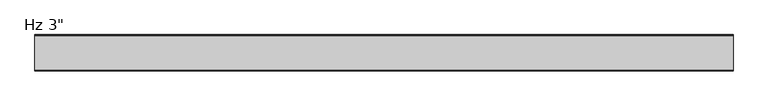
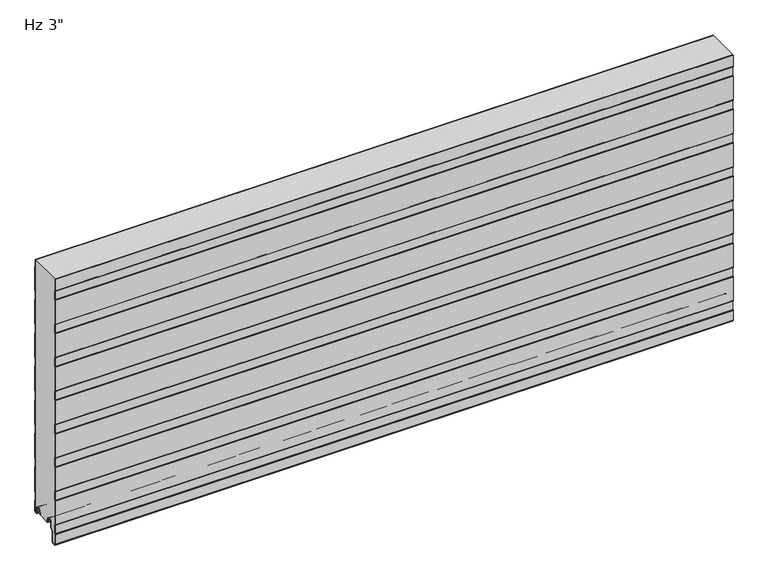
"""IFC4 building model written with IfcOpenShell, lengths in millimetres: plate geometry."""

from ifc_helpers import new_model, si_unit, point, frame, frame_2d, origin, place, context, project, spatial, polyline, circle_curve, trimmed, segment, composite_curve, outline, extrude, source, transform, mapped, element, save
from ifc_brep_helpers import plane_surface, cylinder_surface, revolved_surface, advanced_brep


def plate_888f3173(model_context):
    return source(origin(), model_context, "Body", "SolidModel", [
        advanced_brep(
        [(-730.0, -17.0015368, 2.0313088), (-730.0, -18.00154, 1.0313116), (-730.0, -19.0015314, 2.0313088), (-730.0, -19.0015314, 6.0315125), (-730.0, -18.0015368, 6.0315125), (-730.0, -18.0015368, 8.7237223), (-730.0, -14.7015411, 12.023718), (-730.0, -10.3015499, 12.023718), (-730.0, -7.0015544, 8.7237225), (-730.0, -7.0015544, -1.6962564), (-730.0, -5.2315602, -3.4662506), (-730.0, -1.0000126, -3.4662506), (-730.0, -1.0000126, 21.034026), (-730.0, -2.2002516, 22.4196686), (-730.0, -2.2002516, 41.7948349), (-730.0, -1.0000209, 43.1804679), (-730.0, -1.0000209, 97.2338833), (-730.0, -2.2002516, 98.6195162), (-730.0, -2.2002516, 117.9946825), (-730.0, -1.0000209, 119.3803155), (-730.0, -1.0000209, 173.4337309), (-730.0, -2.2002516, 174.8193638), (-730.0, -2.2002516, 194.1945301), (-730.0, -1.0000209, 195.5801631), (-730.0, -1.0000209, 249.6335785), (-730.0, -2.2002516, 251.0192114), (-730.0, -2.2002516, 270.3943777), (-730.0, -1.0000209, 271.7800107), (-730.0, -1.0000209, 325.8334261), (-730.0, -2.2002516, 327.219059), (-730.0, -2.2002516, 346.5942253), (-730.0, -1.0000209, 347.9798583), (-730.0, -1.0000209, 402.0332737), (-730.0, -2.2002516, 403.4189066), (-730.0, -2.2002516, 422.7940729), (-730.0, -1.0000209, 424.1797059), (-730.0, -1.0000209, 478.2331213), (-730.0, -2.2002516, 479.6187542), (-730.0, -2.2002516, 498.9939205), (-730.0, -1.0000209, 500.3795535), (-730.0, -1.0000209, 554.4329689), (-730.0, -2.2002516, 555.8186018), (-730.0, -2.2002516, 571.2), (-730.0, -1.2002516, 571.2), (-730.0, -1.2002516, 556.1914823), (-730.0, -0.3418094, 555.2004346), (-730.0, -2.09e-05, 554.2838177), (-730.0, -2.09e-05, 500.5287046), (-730.0, -0.3418094, 499.6120877), (-730.0, -1.2002516, 498.6210401), (-730.0, -1.2002516, 479.9916347), (-730.0, -0.3418094, 479.000587), (-730.0, -2.09e-05, 478.0839701), (-730.0, -2.09e-05, 424.328857), (-730.0, -0.3418094, 423.4122401), (-730.0, -1.2002516, 422.4211925), (-730.0, -1.2002516, 403.7917871), (-730.0, -0.3418094, 402.8007394), (-730.0, -2.09e-05, 401.8841225), (-730.0, -2.09e-05, 348.1290094), (-730.0, -0.3418094, 347.2123925), (-730.0, -1.2002516, 346.2213449), (-730.0, -1.2002516, 327.5919395), (-730.0, -0.3418094, 326.6008918), (-730.0, -2.09e-05, 325.6842749), (-730.0, -2.09e-05, 271.9291618), (-730.0, -0.3418094, 271.0125449), (-730.0, -1.2002516, 270.0214973), (-730.0, -1.2002516, 251.3920919), (-730.0, -0.3418094, 250.4010442), (-730.0, -2.09e-05, 249.4844273), (-730.0, -2.09e-05, 195.7293142), (-730.0, -0.3418094, 194.8126973), (-730.0, -1.2002516, 193.8216497), (-730.0, -1.2002516, 175.1922443), (-730.0, -0.3418094, 174.2011966), (-730.0, -2.09e-05, 173.2845797), (-730.0, -2.09e-05, 119.5294666), (-730.0, -0.3418094, 118.6128497), (-730.0, -1.2002516, 117.6218021), (-730.0, -1.2002516, 98.9923967), (-730.0, -0.3418094, 98.001349), (-730.0, -2.09e-05, 97.0847321), (-730.0, -2.09e-05, 43.329619), (-730.0, -0.3418094, 42.4130021), (-730.0, -1.2002516, 41.4219545), (-730.0, -1.2002516, 22.7925491), (-730.0, -0.3418094, 21.8015014), (-730.0, -2.09e-05, 20.8847931), (-730.0, -1.26e-05, -3.0662545), (-730.0, -1.4000087, -4.4662506), (-730.0, -5.2315602, -4.4662506), (-730.0, -8.0015544, -1.6962564), (-730.0, -8.0015544, 8.7237225), (-730.0, -10.3015499, 11.023718), (-730.0, -14.7015411, 11.023718), (-730.0, -17.0015368, 8.7237223), (730.0, -17.0015368, 2.0313088), (730.0, -17.0015368, 8.7237223), (730.0, -14.7015411, 11.023718), (730.0, -10.3015499, 11.023718), (730.0, -8.0015544, 8.7237225), (730.0, -8.0015544, -1.6962564), (730.0, -5.2315602, -4.4662506), (730.0, -1.4000087, -4.4662506), (730.0, -1.26e-05, -3.0662545), (730.0, -1.26e-05, 20.8848845), (730.0, -0.3418094, 21.8015014), (730.0, -1.2002516, 22.7925491), (730.0, -1.2002516, 41.4219545), (730.0, -0.3418094, 42.4130021), (730.0, -2.09e-05, 43.329619), (730.0, -2.09e-05, 97.0847321), (730.0, -0.3418094, 98.001349), (730.0, -1.2002516, 98.9923967), (730.0, -1.2002516, 117.6218021), (730.0, -0.3418094, 118.6128497), (730.0, -2.09e-05, 119.5294666), (730.0, -2.09e-05, 173.2845797), (730.0, -0.3418094, 174.2011966), (730.0, -1.2002516, 175.1922443), (730.0, -1.2002516, 193.8216497), (730.0, -0.3418094, 194.8126973), (730.0, -2.09e-05, 195.7293142), (730.0, -2.09e-05, 249.4844273), (730.0, -0.3418094, 250.4010442), (730.0, -1.2002516, 251.3920919), (730.0, -1.2002516, 270.0214973), (730.0, -0.3418094, 271.0125449), (730.0, -2.09e-05, 271.9291618), (730.0, -2.09e-05, 325.6842749), (730.0, -0.3418094, 326.6008918), (730.0, -1.2002516, 327.5919395), (730.0, -1.2002516, 346.2213449), (730.0, -0.3418094, 347.2123925), (730.0, -2.09e-05, 348.1290094), (730.0, -2.09e-05, 401.8841225), (730.0, -0.3418094, 402.8007394), (730.0, -1.2002516, 403.7917871), (730.0, -1.2002516, 422.4211925), (730.0, -0.3418094, 423.4122401), (730.0, -2.09e-05, 424.328857), (730.0, -2.09e-05, 478.0839701), (730.0, -0.3418094, 479.000587), (730.0, -1.2002516, 479.9916347), (730.0, -1.2002516, 498.6210401), (730.0, -0.3418094, 499.6120877), (730.0, -2.09e-05, 500.5287046), (730.0, -2.09e-05, 554.2838177), (730.0, -0.3418094, 555.2004346), (730.0, -1.2002516, 556.1914823), (730.0, -1.2002516, 571.2), (730.0, -2.2002516, 571.2), (730.0, -2.2002516, 555.8186018), (730.0, -1.0000209, 554.4329689), (730.0, -1.0000209, 500.3795535), (730.0, -2.2002516, 498.9939205), (730.0, -2.2002516, 479.6187542), (730.0, -1.0000209, 478.2331213), (730.0, -1.0000209, 424.1797059), (730.0, -2.2002516, 422.7940729), (730.0, -2.2002516, 403.4189066), (730.0, -1.0000209, 402.0332737), (730.0, -1.0000209, 347.9798583), (730.0, -2.2002516, 346.5942253), (730.0, -2.2002516, 327.219059), (730.0, -1.0000209, 325.8334261), (730.0, -1.0000209, 271.7800107), (730.0, -2.2002516, 270.3943777), (730.0, -2.2002516, 251.0192114), (730.0, -1.0000209, 249.6335785), (730.0, -1.0000209, 195.5801631), (730.0, -2.2002516, 194.1945301), (730.0, -2.2002516, 174.8193638), (730.0, -1.0000209, 173.4337309), (730.0, -1.0000209, 119.3803155), (730.0, -2.2002516, 117.9946825), (730.0, -2.2002516, 98.6195162), (730.0, -1.0000209, 97.2338833), (730.0, -1.0000209, 43.1804679), (730.0, -2.2002516, 41.7948349), (730.0, -2.2002516, 22.4196686), (730.0, -1.0000126, 21.034026), (730.0, -1.0000126, -3.4662506), (730.0, -5.2315602, -3.4662506), (730.0, -7.0015544, -1.6962564), (730.0, -7.0015544, 8.7237225), (730.0, -10.3015499, 12.023718), (730.0, -14.7015411, 12.023718), (730.0, -18.0015368, 8.7237223), (730.0, -18.0015368, 6.0315125), (730.0, -19.0015314, 6.0315125), (730.0, -19.0015314, 2.0313088), (730.0, -18.0015401, 1.0313116)],
        [
            (0, 1, circle_curve(frame((-730.0, -18.0015341, 2.0313088), z_axis=(-1.0, 0.0, 0.0), x_axis=(0.0, 0.0, 1.0)), 0.9999973)),
            (1, 2, circle_curve(frame((-730.0, -18.0015342, 2.0313088), z_axis=(-1.0, 0.0, 0.0), x_axis=(0.0, 0.0, 1.0)), 0.9999972)),
            (2, 3),
            (3, 4),
            (4, 5),
            (5, 6, circle_curve(frame((-730.0, -14.7015411, 8.7237223), z_axis=(-1.0, 0.0, 0.0), x_axis=(0.0, 0.0, 1.0)), 3.2999957)),
            (6, 7),
            (7, 8, circle_curve(frame((-730.0, -10.3015499, 8.7237225), z_axis=(-1.0, 0.0, 0.0), x_axis=(0.0, 0.0, 1.0)), 3.2999955)),
            (8, 9),
            (9, 10, circle_curve(frame((-730.0, -5.2315602, -1.6962564), z_axis=(1.0, 0.0, 0.0), x_axis=(0.0, 0.0, 1.0)), 1.7699942)),
            (10, 11),
            (11, 12),
            (12, 13),
            (13, 14),
            (14, 15),
            (15, 16),
            (16, 17),
            (17, 18),
            (18, 19),
            (19, 20),
            (20, 21),
            (21, 22),
            (22, 23),
            (23, 24),
            (24, 25),
            (25, 26),
            (26, 27),
            (27, 28),
            (28, 29),
            (29, 30),
            (30, 31),
            (31, 32),
            (32, 33),
            (33, 34),
            (34, 35),
            (35, 36),
            (36, 37),
            (37, 38),
            (38, 39),
            (39, 40),
            (40, 41),
            (41, 42),
            (42, 43),
            (43, 44),
            (44, 45),
            (45, 46, circle_curve(frame((-730.0, -1.4000181, 554.2838177), z_axis=(-1.0, 0.0, 0.0), x_axis=(0.0, 0.0, 1.0)), 1.3999972)),
            (46, 47),
            (47, 48, circle_curve(frame((-730.0, -1.4000181, 500.5287046), z_axis=(-1.0, 0.0, 0.0), x_axis=(0.0, 0.0, 1.0)), 1.3999972)),
            (48, 49),
            (49, 50),
            (50, 51),
            (51, 52, circle_curve(frame((-730.0, -1.4000181, 478.0839701), z_axis=(-1.0, 0.0, 0.0), x_axis=(0.0, 0.0, 1.0)), 1.3999972)),
            (52, 53),
            (53, 54, circle_curve(frame((-730.0, -1.4000181, 424.328857), z_axis=(-1.0, 0.0, 0.0), x_axis=(0.0, 0.0, 1.0)), 1.3999972)),
            (54, 55),
            (55, 56),
            (56, 57),
            (57, 58, circle_curve(frame((-730.0, -1.4000181, 401.8841225), z_axis=(-1.0, 0.0, 0.0), x_axis=(0.0, 0.0, 1.0)), 1.3999972)),
            (58, 59),
            (59, 60, circle_curve(frame((-730.0, -1.4000181, 348.1290094), z_axis=(-1.0, 0.0, 0.0), x_axis=(0.0, 0.0, 1.0)), 1.3999972)),
            (60, 61),
            (61, 62),
            (62, 63),
            (63, 64, circle_curve(frame((-730.0, -1.4000181, 325.6842749), z_axis=(-1.0, 0.0, 0.0), x_axis=(0.0, 0.0, 1.0)), 1.3999972)),
            (64, 65),
            (65, 66, circle_curve(frame((-730.0, -1.4000181, 271.9291618), z_axis=(-1.0, 0.0, 0.0), x_axis=(0.0, 0.0, 1.0)), 1.3999972)),
            (66, 67),
            (67, 68),
            (68, 69),
            (69, 70, circle_curve(frame((-730.0, -1.4000181, 249.4844273), z_axis=(-1.0, 0.0, 0.0), x_axis=(0.0, 0.0, 1.0)), 1.3999972)),
            (70, 71),
            (71, 72, circle_curve(frame((-730.0, -1.4000181, 195.7293142), z_axis=(-1.0, 0.0, 0.0), x_axis=(0.0, 0.0, 1.0)), 1.3999972)),
            (72, 73),
            (73, 74),
            (74, 75),
            (75, 76, circle_curve(frame((-730.0, -1.4000181, 173.2845797), z_axis=(-1.0, 0.0, 0.0), x_axis=(0.0, 0.0, 1.0)), 1.3999972)),
            (76, 77),
            (77, 78, circle_curve(frame((-730.0, -1.4000181, 119.5294666), z_axis=(-1.0, 0.0, 0.0), x_axis=(0.0, 0.0, 1.0)), 1.3999972)),
            (78, 79),
            (79, 80),
            (80, 81),
            (81, 82, circle_curve(frame((-730.0, -1.4000181, 97.0847321), z_axis=(-1.0, 0.0, 0.0), x_axis=(0.0, 0.0, 1.0)), 1.3999972)),
            (82, 83),
            (83, 84, circle_curve(frame((-730.0, -1.4000181, 43.329619), z_axis=(-1.0, 0.0, 0.0), x_axis=(0.0, 0.0, 1.0)), 1.3999972)),
            (84, 85),
            (85, 86),
            (86, 87),
            (87, 88, circle_curve(frame((-730.0, -1.4000181, 20.8848845), z_axis=(-1.0, 0.0, 0.0), x_axis=(0.0, 0.0, 1.0)), 1.3999972)),
            (88, 89),
            (89, 90, circle_curve(frame((-730.0, -1.4000087, -3.0662545), z_axis=(-1.0, 0.0, 0.0), x_axis=(0.0, 0.0, 1.0)), 1.3999962)),
            (90, 91),
            (91, 92, circle_curve(frame((-730.0, -5.2315602, -1.6962564), z_axis=(-1.0, 0.0, 0.0), x_axis=(0.0, 0.0, 1.0)), 2.7699942)),
            (92, 93),
            (93, 94, circle_curve(frame((-730.0, -10.3015499, 8.7237225), z_axis=(1.0, 0.0, 0.0), x_axis=(0.0, 0.0, 1.0)), 2.2999955)),
            (94, 95),
            (95, 96, circle_curve(frame((-730.0, -14.7015411, 8.7237223), z_axis=(1.0, 0.0, 0.0), x_axis=(0.0, 0.0, 1.0)), 2.2999957)),
            (96, 0),
            (97, 98),
            (98, 99, circle_curve(frame((730.0, -14.7015411, 8.7237223), z_axis=(-1.0, 0.0, 0.0), x_axis=(0.0, 0.0, 1.0)), 2.2999957)),
            (99, 100),
            (100, 101, circle_curve(frame((730.0, -10.3015499, 8.7237225), z_axis=(-1.0, 0.0, 0.0), x_axis=(0.0, 0.0, 1.0)), 2.2999955)),
            (101, 102),
            (102, 103, circle_curve(frame((730.0, -5.2315602, -1.6962564), z_axis=(1.0, 0.0, 0.0), x_axis=(0.0, 0.0, 1.0)), 2.7699942)),
            (103, 104),
            (104, 105, circle_curve(frame((730.0, -1.4000087, -3.0662545), z_axis=(1.0, 0.0, 0.0), x_axis=(0.0, 0.0, 1.0)), 1.3999962)),
            (105, 106),
            (106, 107, circle_curve(frame((730.0, -1.4000181, 20.8848845), z_axis=(1.0, 0.0, 0.0), x_axis=(0.0, 0.0, 1.0)), 1.3999972)),
            (107, 108),
            (108, 109),
            (109, 110),
            (110, 111, circle_curve(frame((730.0, -1.4000181, 43.329619), z_axis=(1.0, 0.0, 0.0), x_axis=(0.0, 0.0, 1.0)), 1.3999972)),
            (111, 112),
            (112, 113, circle_curve(frame((730.0, -1.4000181, 97.0847321), z_axis=(1.0, 0.0, 0.0), x_axis=(0.0, 0.0, 1.0)), 1.3999972)),
            (113, 114),
            (114, 115),
            (115, 116),
            (116, 117, circle_curve(frame((730.0, -1.4000181, 119.5294666), z_axis=(1.0, 0.0, 0.0), x_axis=(0.0, 0.0, 1.0)), 1.3999972)),
            (117, 118),
            (118, 119, circle_curve(frame((730.0, -1.4000181, 173.2845797), z_axis=(1.0, 0.0, 0.0), x_axis=(0.0, 0.0, 1.0)), 1.3999972)),
            (119, 120),
            (120, 121),
            (121, 122),
            (122, 123, circle_curve(frame((730.0, -1.4000181, 195.7293142), z_axis=(1.0, 0.0, 0.0), x_axis=(0.0, 0.0, 1.0)), 1.3999972)),
            (123, 124),
            (124, 125, circle_curve(frame((730.0, -1.4000181, 249.4844273), z_axis=(1.0, 0.0, 0.0), x_axis=(0.0, 0.0, 1.0)), 1.3999972)),
            (125, 126),
            (126, 127),
            (127, 128),
            (128, 129, circle_curve(frame((730.0, -1.4000181, 271.9291618), z_axis=(1.0, 0.0, 0.0), x_axis=(0.0, 0.0, 1.0)), 1.3999972)),
            (129, 130),
            (130, 131, circle_curve(frame((730.0, -1.4000181, 325.6842749), z_axis=(1.0, 0.0, 0.0), x_axis=(0.0, 0.0, 1.0)), 1.3999972)),
            (131, 132),
            (132, 133),
            (133, 134),
            (134, 135, circle_curve(frame((730.0, -1.4000181, 348.1290094), z_axis=(1.0, 0.0, 0.0), x_axis=(0.0, 0.0, 1.0)), 1.3999972)),
            (135, 136),
            (136, 137, circle_curve(frame((730.0, -1.4000181, 401.8841225), z_axis=(1.0, 0.0, 0.0), x_axis=(0.0, 0.0, 1.0)), 1.3999972)),
            (137, 138),
            (138, 139),
            (139, 140),
            (140, 141, circle_curve(frame((730.0, -1.4000181, 424.328857), z_axis=(1.0, 0.0, 0.0), x_axis=(0.0, 0.0, 1.0)), 1.3999972)),
            (141, 142),
            (142, 143, circle_curve(frame((730.0, -1.4000181, 478.0839701), z_axis=(1.0, 0.0, 0.0), x_axis=(0.0, 0.0, 1.0)), 1.3999972)),
            (143, 144),
            (144, 145),
            (145, 146),
            (146, 147, circle_curve(frame((730.0, -1.4000181, 500.5287046), z_axis=(1.0, 0.0, 0.0), x_axis=(0.0, 0.0, 1.0)), 1.3999972)),
            (147, 148),
            (148, 149, circle_curve(frame((730.0, -1.4000181, 554.2838177), z_axis=(1.0, 0.0, 0.0), x_axis=(0.0, 0.0, 1.0)), 1.3999972)),
            (149, 150),
            (150, 151),
            (151, 152),
            (152, 153),
            (153, 154),
            (154, 155),
            (155, 156),
            (156, 157),
            (157, 158),
            (158, 159),
            (159, 160),
            (160, 161),
            (161, 162),
            (162, 163),
            (163, 164),
            (164, 165),
            (165, 166),
            (166, 167),
            (167, 168),
            (168, 169),
            (169, 170),
            (170, 171),
            (171, 172),
            (172, 173),
            (173, 174),
            (174, 175),
            (175, 176),
            (176, 177),
            (177, 178),
            (178, 179),
            (179, 180),
            (180, 181),
            (181, 182),
            (182, 183),
            (183, 184),
            (184, 185, circle_curve(frame((730.0, -5.2315602, -1.6962564), z_axis=(-1.0, 0.0, 0.0), x_axis=(0.0, 0.0, 1.0)), 1.7699942)),
            (185, 186),
            (186, 187, circle_curve(frame((730.0, -10.3015499, 8.7237225), z_axis=(1.0, 0.0, 0.0), x_axis=(0.0, 0.0, 1.0)), 3.2999955)),
            (187, 188),
            (188, 189, circle_curve(frame((730.0, -14.7015411, 8.7237223), z_axis=(1.0, 0.0, 0.0), x_axis=(0.0, 0.0, 1.0)), 3.2999957)),
            (189, 190),
            (190, 191),
            (191, 192),
            (192, 193, circle_curve(frame((730.0, -18.0015342, 2.0313088), z_axis=(1.0, 0.0, 0.0), x_axis=(0.0, 0.0, 1.0)), 0.9999972)),
            (193, 97, circle_curve(frame((730.0, -18.0015341, 2.0313088), z_axis=(1.0, 0.0, 0.0), x_axis=(0.0, 0.0, 1.0)), 0.9999973)),
            (96, 98),
            (97, 0),
            (95, 99),
            (94, 100),
            (93, 101),
            (92, 102),
            (91, 103),
            (90, 104),
            (89, 105),
            (88, 106),
            (87, 107),
            (86, 108),
            (85, 109),
            (84, 110),
            (83, 111),
            (82, 112),
            (81, 113),
            (80, 114),
            (79, 115),
            (78, 116),
            (77, 117),
            (76, 118),
            (75, 119),
            (74, 120),
            (73, 121),
            (72, 122),
            (71, 123),
            (70, 124),
            (69, 125),
            (68, 126),
            (67, 127),
            (66, 128),
            (65, 129),
            (64, 130),
            (63, 131),
            (62, 132),
            (61, 133),
            (60, 134),
            (59, 135),
            (58, 136),
            (57, 137),
            (56, 138),
            (55, 139),
            (54, 140),
            (53, 141),
            (52, 142),
            (51, 143),
            (50, 144),
            (49, 145),
            (48, 146),
            (47, 147),
            (46, 148),
            (45, 149),
            (44, 150),
            (43, 151),
            (152, 42),
            (41, 153),
            (40, 154),
            (39, 155),
            (38, 156),
            (37, 157),
            (36, 158),
            (35, 159),
            (34, 160),
            (33, 161),
            (32, 162),
            (31, 163),
            (30, 164),
            (29, 165),
            (28, 166),
            (27, 167),
            (26, 168),
            (25, 169),
            (24, 170),
            (23, 171),
            (22, 172),
            (21, 173),
            (20, 174),
            (19, 175),
            (18, 176),
            (17, 177),
            (16, 178),
            (15, 179),
            (14, 180),
            (13, 181),
            (12, 182),
            (11, 183),
            (10, 184),
            (9, 185),
            (8, 186),
            (7, 187),
            (6, 188),
            (5, 189),
            (4, 190),
            (3, 191),
            (2, 192),
            (1, 193),
        ],
        [
            plane_surface(frame((-730.0, -2.09e-05, 457.2), z_axis=(-1.0, 0.0, 0.0), x_axis=(0.0, 1.0, 0.0))),
            plane_surface(frame((730.0, -2.09e-05, 457.2), z_axis=(1.0, 0.0, 0.0), x_axis=(0.0, 1.0, 0.0))),
            plane_surface(frame((-730.0, -17.0015368, 2.0313088), z_axis=(0.0, 1.0, 0.0), x_axis=(1.0, 0.0, 0.0))),
            revolved_surface(polyline([(730.0, -14.7015411, 11.023718), (-730.0, -14.7015411, 11.023718)]), (-730.0, -14.7015411, 8.7237223), (1.0, 0.0, 0.0)),
            plane_surface(frame((-730.0, -14.7015411, 11.023718), z_axis=(0.0, 0.0, -1.0), x_axis=(1.0, 0.0, 0.0))),
            revolved_surface(polyline([(730.0, -10.3015499, 11.023717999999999), (-730.0, -10.3015499, 11.023717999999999)]), (-730.0, -10.3015499, 8.7237225), (1.0, 0.0, 0.0)),
            plane_surface(frame((-730.0, -8.0015544, 8.7237225), z_axis=(0.0, -1.0, 0.0), x_axis=(1.0, 0.0, 0.0))),
            cylinder_surface(frame((-730.0, -5.2315602, -1.6962564), z_axis=(-1.0, 0.0, 0.0), x_axis=(0.0, 0.0, 1.0)), 2.7699942),
            plane_surface(frame((-730.0, -5.2315602, -4.4662506), z_axis=(0.0, 0.0, -1.0), x_axis=(1.0, 0.0, 0.0))),
            cylinder_surface(frame((-730.0, -1.4000087, -3.0662545), z_axis=(-1.0, 0.0, 0.0), x_axis=(0.0, 0.0, 1.0)), 1.3999962),
            plane_surface(frame((-730.0, -1.26e-05, -3.0662545), z_axis=(0.0, 1.0, 0.0), x_axis=(1.0, 0.0, 0.0))),
            cylinder_surface(frame((-730.0, -1.4000181, 20.8848845), z_axis=(-1.0, 0.0, 0.0), x_axis=(0.0, 0.0, 1.0)), 1.3999972),
            plane_surface(frame((-730.0, -0.3418094, 21.8015014), z_axis=(0.0, 0.755864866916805, 0.6547276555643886), x_axis=(1.0, 0.0, 0.0))),
            plane_surface(frame((-730.0, -1.2002516, 32.1072518), z_axis=(0.0, 1.0, 0.0), x_axis=(1.0, 0.0, 0.0))),
            plane_surface(frame((-730.0, -1.2002516, 41.4219545), z_axis=(0.0, 0.755864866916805, -0.6547276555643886), x_axis=(1.0, 0.0, 0.0))),
            cylinder_surface(frame((-730.0, -1.4000181, 43.329619), z_axis=(-1.0, 0.0, 0.0), x_axis=(0.0, 0.0, 1.0)), 1.3999972),
            plane_surface(frame((-730.0, -2.09e-05, 43.329619), z_axis=(0.0, 1.0, 0.0), x_axis=(1.0, 0.0, 0.0))),
            cylinder_surface(frame((-730.0, -1.4000181, 97.0847321), z_axis=(-1.0, 0.0, 0.0), x_axis=(0.0, 0.0, 1.0)), 1.3999972),
            plane_surface(frame((-730.0, -0.3418094, 98.001349), z_axis=(0.0, 0.755864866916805, 0.6547276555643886), x_axis=(1.0, 0.0, 0.0))),
            plane_surface(frame((-730.0, -1.2002516, 108.3070994), z_axis=(0.0, 1.0, 0.0), x_axis=(1.0, 0.0, 0.0))),
            plane_surface(frame((-730.0, -1.2002516, 117.6218021), z_axis=(0.0, 0.755864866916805, -0.6547276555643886), x_axis=(1.0, 0.0, 0.0))),
            cylinder_surface(frame((-730.0, -1.4000181, 119.5294666), z_axis=(-1.0, 0.0, 0.0), x_axis=(0.0, 0.0, 1.0)), 1.3999972),
            plane_surface(frame((-730.0, -2.09e-05, 119.5294666), z_axis=(0.0, 1.0, 0.0), x_axis=(1.0, 0.0, 0.0))),
            cylinder_surface(frame((-730.0, -1.4000181, 173.2845797), z_axis=(-1.0, 0.0, 0.0), x_axis=(0.0, 0.0, 1.0)), 1.3999972),
            plane_surface(frame((-730.0, -0.3418094, 174.2011966), z_axis=(0.0, 0.755864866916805, 0.6547276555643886), x_axis=(1.0, 0.0, 0.0))),
            plane_surface(frame((-730.0, -1.2002516, 184.506947), z_axis=(0.0, 1.0, 0.0), x_axis=(1.0, 0.0, 0.0))),
            plane_surface(frame((-730.0, -1.2002516, 193.8216497), z_axis=(0.0, 0.755864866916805, -0.6547276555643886), x_axis=(1.0, 0.0, 0.0))),
            cylinder_surface(frame((-730.0, -1.4000181, 195.7293142), z_axis=(-1.0, 0.0, 0.0), x_axis=(0.0, 0.0, 1.0)), 1.3999972),
            plane_surface(frame((-730.0, -2.09e-05, 195.7293142), z_axis=(0.0, 1.0, 0.0), x_axis=(1.0, 0.0, 0.0))),
            cylinder_surface(frame((-730.0, -1.4000181, 249.4844273), z_axis=(-1.0, 0.0, 0.0), x_axis=(0.0, 0.0, 1.0)), 1.3999972),
            plane_surface(frame((-730.0, -0.3418094, 250.4010442), z_axis=(0.0, 0.755864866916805, 0.6547276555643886), x_axis=(1.0, 0.0, 0.0))),
            plane_surface(frame((-730.0, -1.2002516, 260.7067946), z_axis=(0.0, 1.0, 0.0), x_axis=(1.0, 0.0, 0.0))),
            plane_surface(frame((-730.0, -1.2002516, 270.0214973), z_axis=(0.0, 0.755864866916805, -0.6547276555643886), x_axis=(1.0, 0.0, 0.0))),
            cylinder_surface(frame((-730.0, -1.4000181, 271.9291618), z_axis=(-1.0, 0.0, 0.0), x_axis=(0.0, 0.0, 1.0)), 1.3999972),
            plane_surface(frame((-730.0, -2.09e-05, 271.9291618), z_axis=(0.0, 1.0, 0.0), x_axis=(1.0, 0.0, 0.0))),
            cylinder_surface(frame((-730.0, -1.4000181, 325.6842749), z_axis=(-1.0, 0.0, 0.0), x_axis=(0.0, 0.0, 1.0)), 1.3999972),
            plane_surface(frame((-730.0, -0.3418094, 326.6008918), z_axis=(0.0, 0.755864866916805, 0.6547276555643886), x_axis=(1.0, 0.0, 0.0))),
            plane_surface(frame((-730.0, -1.2002516, 336.9066422), z_axis=(0.0, 1.0, 0.0), x_axis=(1.0, 0.0, 0.0))),
            plane_surface(frame((-730.0, -1.2002516, 346.2213449), z_axis=(0.0, 0.755864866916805, -0.6547276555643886), x_axis=(1.0, 0.0, 0.0))),
            cylinder_surface(frame((-730.0, -1.4000181, 348.1290094), z_axis=(-1.0, 0.0, 0.0), x_axis=(0.0, 0.0, 1.0)), 1.3999972),
            plane_surface(frame((-730.0, -2.09e-05, 348.1290094), z_axis=(0.0, 1.0, 0.0), x_axis=(1.0, 0.0, 0.0))),
            cylinder_surface(frame((-730.0, -1.4000181, 401.8841225), z_axis=(-1.0, 0.0, 0.0), x_axis=(0.0, 0.0, 1.0)), 1.3999972),
            plane_surface(frame((-730.0, -0.3418094, 402.8007394), z_axis=(0.0, 0.755864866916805, 0.6547276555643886), x_axis=(1.0, 0.0, 0.0))),
            plane_surface(frame((-730.0, -1.2002516, 413.1064898), z_axis=(0.0, 1.0, 0.0), x_axis=(1.0, 0.0, 0.0))),
            plane_surface(frame((-730.0, -1.2002516, 422.4211925), z_axis=(0.0, 0.755864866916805, -0.6547276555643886), x_axis=(1.0, 0.0, 0.0))),
            cylinder_surface(frame((-730.0, -1.4000181, 424.328857), z_axis=(-1.0, 0.0, 0.0), x_axis=(0.0, 0.0, 1.0)), 1.3999972),
            plane_surface(frame((-730.0, -2.09e-05, 424.328857), z_axis=(0.0, 1.0, 0.0), x_axis=(1.0, 0.0, 0.0))),
            cylinder_surface(frame((-730.0, -1.4000181, 478.0839701), z_axis=(-1.0, 0.0, 0.0), x_axis=(0.0, 0.0, 1.0)), 1.3999972),
            plane_surface(frame((-730.0, -0.3418094, 479.000587), z_axis=(0.0, 0.755864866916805, 0.6547276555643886), x_axis=(1.0, 0.0, 0.0))),
            plane_surface(frame((-730.0, -1.2002516, 489.3063374), z_axis=(0.0, 1.0, 0.0), x_axis=(1.0, 0.0, 0.0))),
            plane_surface(frame((-730.0, -1.2002516, 498.6210401), z_axis=(0.0, 0.755864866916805, -0.6547276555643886), x_axis=(1.0, 0.0, 0.0))),
            cylinder_surface(frame((-730.0, -1.4000181, 500.5287046), z_axis=(-1.0, 0.0, 0.0), x_axis=(0.0, 0.0, 1.0)), 1.3999972),
            plane_surface(frame((-730.0, -2.09e-05, 500.5287046), z_axis=(0.0, 1.0, 0.0), x_axis=(1.0, 0.0, 0.0))),
            cylinder_surface(frame((-730.0, -1.4000181, 554.2838177), z_axis=(-1.0, 0.0, 0.0), x_axis=(0.0, 0.0, 1.0)), 1.3999972),
            plane_surface(frame((-730.0, -0.3418094, 555.2004346), z_axis=(0.0, 0.755864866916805, 0.6547276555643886), x_axis=(1.0, 0.0, 0.0))),
            plane_surface(frame((-730.0, -1.2002516, 565.506185), z_axis=(0.0, 1.0, 0.0), x_axis=(1.0, 0.0, 0.0))),
            plane_surface(frame((-730.0, -2.2002516, 575.1937681), z_axis=(0.0, -1.0, 0.0), x_axis=(1.0, 0.0, 0.0))),
            plane_surface(frame((-730.0, -2.2002516, 555.8186018), z_axis=(0.0, -0.755864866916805, -0.6547276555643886), x_axis=(1.0, 0.0, 0.0))),
            plane_surface(frame((-730.0, -1.0000209, 554.4329689), z_axis=(0.0, -1.0, 0.0), x_axis=(1.0, 0.0, 0.0))),
            plane_surface(frame((-730.0, -1.0000209, 500.3795535), z_axis=(0.0, -0.755864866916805, 0.6547276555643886), x_axis=(1.0, 0.0, 0.0))),
            plane_surface(frame((-730.0, -2.2002516, 498.9939205), z_axis=(0.0, -1.0, 0.0), x_axis=(1.0, 0.0, 0.0))),
            plane_surface(frame((-730.0, -2.2002516, 479.6187542), z_axis=(0.0, -0.755864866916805, -0.6547276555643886), x_axis=(1.0, 0.0, 0.0))),
            plane_surface(frame((-730.0, -1.0000209, 478.2331213), z_axis=(0.0, -1.0, 0.0), x_axis=(1.0, 0.0, 0.0))),
            plane_surface(frame((-730.0, -1.0000209, 424.1797059), z_axis=(0.0, -0.755864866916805, 0.6547276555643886), x_axis=(1.0, 0.0, 0.0))),
            plane_surface(frame((-730.0, -2.2002516, 422.7940729), z_axis=(0.0, -1.0, 0.0), x_axis=(1.0, 0.0, 0.0))),
            plane_surface(frame((-730.0, -2.2002516, 403.4189066), z_axis=(0.0, -0.755864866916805, -0.6547276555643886), x_axis=(1.0, 0.0, 0.0))),
            plane_surface(frame((-730.0, -1.0000209, 402.0332737), z_axis=(0.0, -1.0, 0.0), x_axis=(1.0, 0.0, 0.0))),
            plane_surface(frame((-730.0, -1.0000209, 347.9798583), z_axis=(0.0, -0.755864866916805, 0.6547276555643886), x_axis=(1.0, 0.0, 0.0))),
            plane_surface(frame((-730.0, -2.2002516, 346.5942253), z_axis=(0.0, -1.0, 0.0), x_axis=(1.0, 0.0, 0.0))),
            plane_surface(frame((-730.0, -2.2002516, 327.219059), z_axis=(0.0, -0.755864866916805, -0.6547276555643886), x_axis=(1.0, 0.0, 0.0))),
            plane_surface(frame((-730.0, -1.0000209, 325.8334261), z_axis=(0.0, -1.0, 0.0), x_axis=(1.0, 0.0, 0.0))),
            plane_surface(frame((-730.0, -1.0000209, 271.7800107), z_axis=(0.0, -0.755864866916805, 0.6547276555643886), x_axis=(1.0, 0.0, 0.0))),
            plane_surface(frame((-730.0, -2.2002516, 270.3943777), z_axis=(0.0, -1.0, 0.0), x_axis=(1.0, 0.0, 0.0))),
            plane_surface(frame((-730.0, -2.2002516, 251.0192114), z_axis=(0.0, -0.755864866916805, -0.6547276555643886), x_axis=(1.0, 0.0, 0.0))),
            plane_surface(frame((-730.0, -1.0000209, 249.6335785), z_axis=(0.0, -1.0, 0.0), x_axis=(1.0, 0.0, 0.0))),
            plane_surface(frame((-730.0, -1.0000209, 195.5801631), z_axis=(0.0, -0.755864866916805, 0.6547276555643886), x_axis=(1.0, 0.0, 0.0))),
            plane_surface(frame((-730.0, -2.2002516, 194.1945301), z_axis=(0.0, -1.0, 0.0), x_axis=(1.0, 0.0, 0.0))),
            plane_surface(frame((-730.0, -2.2002516, 174.8193638), z_axis=(0.0, -0.755864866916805, -0.6547276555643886), x_axis=(1.0, 0.0, 0.0))),
            plane_surface(frame((-730.0, -1.0000209, 173.4337309), z_axis=(0.0, -1.0, 0.0), x_axis=(1.0, 0.0, 0.0))),
            plane_surface(frame((-730.0, -1.0000209, 119.3803155), z_axis=(0.0, -0.755864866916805, 0.6547276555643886), x_axis=(1.0, 0.0, 0.0))),
            plane_surface(frame((-730.0, -2.2002516, 117.9946825), z_axis=(0.0, -1.0, 0.0), x_axis=(1.0, 0.0, 0.0))),
            plane_surface(frame((-730.0, -2.2002516, 98.6195162), z_axis=(0.0, -0.755864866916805, -0.6547276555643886), x_axis=(1.0, 0.0, 0.0))),
            plane_surface(frame((-730.0, -1.0000209, 97.2338833), z_axis=(0.0, -1.0, 0.0), x_axis=(1.0, 0.0, 0.0))),
            plane_surface(frame((-730.0, -1.0000209, 43.1804679), z_axis=(0.0, -0.755864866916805, 0.6547276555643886), x_axis=(1.0, 0.0, 0.0))),
            plane_surface(frame((-730.0, -2.2002516, 41.7948349), z_axis=(0.0, -1.0, 0.0), x_axis=(1.0, 0.0, 0.0))),
            plane_surface(frame((-730.0, -2.2002516, 22.4196686), z_axis=(0.0, -0.755864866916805, -0.6547276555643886), x_axis=(1.0, 0.0, 0.0))),
            plane_surface(frame((-730.0, -1.0000126, 21.034026), z_axis=(0.0, -1.0, 0.0), x_axis=(1.0, 0.0, 0.0))),
            plane_surface(frame((-730.0, -1.0000126, -3.4662506), z_axis=(0.0, 0.0, 1.0), x_axis=(1.0, 0.0, 0.0))),
            revolved_surface(polyline([(730.0, -5.2315602, 0.07373779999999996), (-730.0, -5.2315602, 0.07373779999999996)]), (-730.0, -5.2315602, -1.6962564), (1.0, 0.0, 0.0)),
            plane_surface(frame((-730.0, -7.0015544, -1.6962564), z_axis=(0.0, 1.0, 0.0), x_axis=(1.0, 0.0, 0.0))),
            cylinder_surface(frame((-730.0, -10.3015499, 8.7237225), z_axis=(-1.0, 0.0, 0.0), x_axis=(0.0, 0.0, 1.0)), 3.2999955),
            plane_surface(frame((-730.0, -10.3015499, 12.023718), z_axis=(0.0, 0.0, 1.0), x_axis=(1.0, 0.0, 0.0))),
            cylinder_surface(frame((-730.0, -14.7015411, 8.7237223), z_axis=(-1.0, 0.0, 0.0), x_axis=(0.0, 0.0, 1.0)), 3.2999957),
            plane_surface(frame((-730.0, -18.0015368, 8.7237223), z_axis=(0.0, -1.0, 0.0), x_axis=(1.0, 0.0, 0.0))),
            plane_surface(frame((-730.0, -18.0015368, 6.0315125), z_axis=(0.0, 0.0, 1.0), x_axis=(1.0, 0.0, 0.0))),
            plane_surface(frame((-730.0, -19.0015314, 6.0315125), z_axis=(0.0, -1.0, 0.0), x_axis=(1.0, 0.0, 0.0))),
            cylinder_surface(frame((-730.0, -18.0015342, 2.0313088), z_axis=(-1.0, 0.0, 0.0), x_axis=(0.0, 0.0, 1.0)), 0.9999972),
            cylinder_surface(frame((-730.0, -18.0015341, 2.0313088), z_axis=(-1.0, 0.0, 0.0), x_axis=(0.0, 0.0, 1.0)), 0.9999973),
            plane_surface(frame((730.0, 9.9999791, 571.2), z_axis=(0.0, 0.0, 1.0), x_axis=(-1.0, 0.0, 0.0))),
        ],
        [
            (0, [[1, 2, 3, 4, 5, 6, 7, 8, 9, 10, 11, 12, 13, 14, 15, 16, 17, 18, 19, 20, 21, 22, 23, 24, 25, 26, 27, 28, 29, 30, 31, 32, 33, 34, 35, 36, 37, 38, 39, 40, 41, 42, 43, 44, 45, 46, 47, 48, 49, 50, 51, 52, 53, 54, 55, 56, 57, 58, 59, 60, 61, 62, 63, 64, 65, 66, 67, 68, 69, 70, 71, 72, 73, 74, 75, 76, 77, 78, 79, 80, 81, 82, 83, 84, 85, 86, 87, 88, 89, 90, 91, 92, 93, 94, 95, 96, 97]]),
            (1, [[98, 99, 100, 101, 102, 103, 104, 105, 106, 107, 108, 109, 110, 111, 112, 113, 114, 115, 116, 117, 118, 119, 120, 121, 122, 123, 124, 125, 126, 127, 128, 129, 130, 131, 132, 133, 134, 135, 136, 137, 138, 139, 140, 141, 142, 143, 144, 145, 146, 147, 148, 149, 150, 151, 152, 153, 154, 155, 156, 157, 158, 159, 160, 161, 162, 163, 164, 165, 166, 167, 168, 169, 170, 171, 172, 173, 174, 175, 176, 177, 178, 179, 180, 181, 182, 183, 184, 185, 186, 187, 188, 189, 190, 191, 192, 193, 194]]),
            (2, [[195, -98, 196, -97]]),
            (3, [[197, -99, -195, -96]]),
            (4, [[198, -100, -197, -95]]),
            (5, [[199, -101, -198, -94]]),
            (6, [[200, -102, -199, -93]]),
            (7, [[201, -103, -200, -92]]),
            (8, [[202, -104, -201, -91]]),
            (9, [[203, -105, -202, -90]]),
            (10, [[204, -106, -203, -89]]),
            (11, [[205, -107, -204, -88]]),
            (12, [[206, -108, -205, -87]]),
            (13, [[207, -109, -206, -86]]),
            (14, [[208, -110, -207, -85]]),
            (15, [[209, -111, -208, -84]]),
            (16, [[210, -112, -209, -83]]),
            (17, [[211, -113, -210, -82]]),
            (18, [[212, -114, -211, -81]]),
            (19, [[213, -115, -212, -80]]),
            (20, [[214, -116, -213, -79]]),
            (21, [[215, -117, -214, -78]]),
            (22, [[216, -118, -215, -77]]),
            (23, [[217, -119, -216, -76]]),
            (24, [[218, -120, -217, -75]]),
            (25, [[219, -121, -218, -74]]),
            (26, [[220, -122, -219, -73]]),
            (27, [[221, -123, -220, -72]]),
            (28, [[222, -124, -221, -71]]),
            (29, [[223, -125, -222, -70]]),
            (30, [[224, -126, -223, -69]]),
            (31, [[225, -127, -224, -68]]),
            (32, [[226, -128, -225, -67]]),
            (33, [[227, -129, -226, -66]]),
            (34, [[228, -130, -227, -65]]),
            (35, [[229, -131, -228, -64]]),
            (36, [[230, -132, -229, -63]]),
            (37, [[231, -133, -230, -62]]),
            (38, [[232, -134, -231, -61]]),
            (39, [[233, -135, -232, -60]]),
            (40, [[234, -136, -233, -59]]),
            (41, [[235, -137, -234, -58]]),
            (42, [[236, -138, -235, -57]]),
            (43, [[237, -139, -236, -56]]),
            (44, [[238, -140, -237, -55]]),
            (45, [[239, -141, -238, -54]]),
            (46, [[240, -142, -239, -53]]),
            (47, [[241, -143, -240, -52]]),
            (48, [[242, -144, -241, -51]]),
            (49, [[243, -145, -242, -50]]),
            (50, [[244, -146, -243, -49]]),
            (51, [[245, -147, -244, -48]]),
            (52, [[246, -148, -245, -47]]),
            (53, [[247, -149, -246, -46]]),
            (54, [[248, -150, -247, -45]]),
            (55, [[-44, 249, -151, -248]]),
            (56, [[-153, 250, -42, 251]]),
            (57, [[252, -154, -251, -41]]),
            (58, [[253, -155, -252, -40]]),
            (59, [[254, -156, -253, -39]]),
            (60, [[255, -157, -254, -38]]),
            (61, [[256, -158, -255, -37]]),
            (62, [[257, -159, -256, -36]]),
            (63, [[258, -160, -257, -35]]),
            (64, [[259, -161, -258, -34]]),
            (65, [[260, -162, -259, -33]]),
            (66, [[261, -163, -260, -32]]),
            (67, [[262, -164, -261, -31]]),
            (68, [[263, -165, -262, -30]]),
            (69, [[264, -166, -263, -29]]),
            (70, [[265, -167, -264, -28]]),
            (71, [[266, -168, -265, -27]]),
            (72, [[267, -169, -266, -26]]),
            (73, [[268, -170, -267, -25]]),
            (74, [[269, -171, -268, -24]]),
            (75, [[270, -172, -269, -23]]),
            (76, [[271, -173, -270, -22]]),
            (77, [[272, -174, -271, -21]]),
            (78, [[273, -175, -272, -20]]),
            (79, [[274, -176, -273, -19]]),
            (80, [[275, -177, -274, -18]]),
            (81, [[276, -178, -275, -17]]),
            (82, [[277, -179, -276, -16]]),
            (83, [[278, -180, -277, -15]]),
            (84, [[279, -181, -278, -14]]),
            (85, [[280, -182, -279, -13]]),
            (86, [[281, -183, -280, -12]]),
            (87, [[282, -184, -281, -11]]),
            (88, [[283, -185, -282, -10]]),
            (89, [[284, -186, -283, -9]]),
            (90, [[285, -187, -284, -8]]),
            (91, [[286, -188, -285, -7]]),
            (92, [[287, -189, -286, -6]]),
            (93, [[288, -190, -287, -5]]),
            (94, [[289, -191, -288, -4]]),
            (95, [[290, -192, -289, -3]]),
            (96, [[291, -193, -290, -2]]),
            (97, [[-196, -194, -291, -1]]),
            (98, [[-250, -152, -249, -43]]),
        ],
    ),
        extrude(outline(composite_curve([segment(trimmed(circle_curve(frame_2d((-74.7998926, -10.6415934)), 1.3998661), [point((-76.1997587, -10.6415934))], [point((-75.7325165, -9.5976403))], False, "CARTESIAN"), True, "CONTINUOUS"), segment(polyline([(-75.7325165, -9.5976403), (-74.9997902, -8.8649141), (-74.9997902, 10.0260713), (-75.7327558, 10.7590369)]), True, "CONTINUOUS"), segment(trimmed(circle_curve(frame_2d((-74.8000446, 11.8030877)), 1.3999972), [point((-75.7327558, 10.7590369))], [point((-76.2000209, 11.810741))], False, "CARTESIAN"), True, "CONTINUOUS"), segment(polyline([(-76.2000209, 11.810741), (-76.2000209, 65.5582542)]), True, "CONTINUOUS"), segment(trimmed(circle_curve(frame_2d((-74.8000237, 65.5582542)), 1.3999972), [point((-76.2000209, 65.5582542))], [point((-75.7327349, 66.602305))], False, "CARTESIAN"), True, "CONTINUOUS"), segment(polyline([(-75.7327349, 66.602305), (-74.9997902, 67.3352497), (-74.9997902, 86.2259189), (-75.7327558, 86.9588845)]), True, "CONTINUOUS"), segment(trimmed(circle_curve(frame_2d((-74.8000446, 88.0029353)), 1.3999972), [point((-75.7327558, 86.9588845))], [point((-76.2000209, 88.0105886))], False, "CARTESIAN"), True, "CONTINUOUS"), segment(polyline([(-76.2000209, 88.0105886), (-76.2000209, 141.7581018)]), True, "CONTINUOUS"), segment(trimmed(circle_curve(frame_2d((-74.8000237, 141.7581018)), 1.3999972), [point((-76.2000209, 141.7581018))], [point((-75.7327349, 142.8021526))], False, "CARTESIAN"), True, "CONTINUOUS"), segment(polyline([(-75.7327349, 142.8021526), (-74.9997902, 143.5350973), (-74.9997902, 162.4257665), (-75.7327558, 163.1587321)]), True, "CONTINUOUS"), segment(trimmed(circle_curve(frame_2d((-74.8000446, 164.2027829)), 1.3999972), [point((-75.7327558, 163.1587321))], [point((-76.2000209, 164.2104362))], False, "CARTESIAN"), True, "CONTINUOUS"), segment(polyline([(-76.2000209, 164.2104362), (-76.2000209, 217.9579494)]), True, "CONTINUOUS"), segment(trimmed(circle_curve(frame_2d((-74.8000237, 217.9579494)), 1.3999972), [point((-76.2000209, 217.9579494))], [point((-75.7327349, 219.0020002))], False, "CARTESIAN"), True, "CONTINUOUS"), segment(polyline([(-75.7327349, 219.0020002), (-74.9997902, 219.7349449), (-74.9997902, 238.6256141), (-75.7327558, 239.3585797)]), True, "CONTINUOUS"), segment(trimmed(circle_curve(frame_2d((-74.8000446, 240.4026305)), 1.3999972), [point((-75.7327558, 239.3585797))], [point((-76.2000209, 240.4102838))], False, "CARTESIAN"), True, "CONTINUOUS"), segment(polyline([(-76.2000209, 240.4102838), (-76.2000209, 294.157797)]), True, "CONTINUOUS"), segment(trimmed(circle_curve(frame_2d((-74.8000237, 294.157797)), 1.3999972), [point((-76.2000209, 294.157797))], [point((-75.7327349, 295.2018478))], False, "CARTESIAN"), True, "CONTINUOUS"), segment(polyline([(-75.7327349, 295.2018478), (-74.9997902, 295.9347925), (-74.9997902, 314.8254617), (-75.7327558, 315.5584273)]), True, "CONTINUOUS"), segment(trimmed(circle_curve(frame_2d((-74.8000446, 316.6024781)), 1.3999972), [point((-75.7327558, 315.5584273))], [point((-76.2000209, 316.6101314))], False, "CARTESIAN"), True, "CONTINUOUS"), segment(polyline([(-76.2000209, 316.6101314), (-76.2000209, 370.3576446)]), True, "CONTINUOUS"), segment(trimmed(circle_curve(frame_2d((-74.8000237, 370.3576446)), 1.3999972), [point((-76.2000209, 370.3576446))], [point((-75.7327349, 371.4016954))], False, "CARTESIAN"), True, "CONTINUOUS"), segment(polyline([(-75.7327349, 371.4016954), (-74.9997902, 372.1346401), (-74.9997902, 391.0253093), (-75.7327558, 391.7582749)]), True, "CONTINUOUS"), segment(trimmed(circle_curve(frame_2d((-74.8000446, 392.8023257)), 1.3999972), [point((-75.7327558, 391.7582749))], [point((-76.2000209, 392.809979))], False, "CARTESIAN"), True, "CONTINUOUS"), segment(polyline([(-76.2000209, 392.809979), (-76.2000209, 446.5574922)]), True, "CONTINUOUS"), segment(trimmed(circle_curve(frame_2d((-74.8000237, 446.5574922)), 1.3999972), [point((-76.2000209, 446.5574922))], [point((-75.7327349, 447.601543))], False, "CARTESIAN"), True, "CONTINUOUS"), segment(polyline([(-75.7327349, 447.601543), (-74.9997902, 448.3344877), (-74.9997902, 467.2251569), (-75.7327558, 467.9581225)]), True, "CONTINUOUS"), segment(trimmed(circle_curve(frame_2d((-74.8000446, 469.0021733)), 1.3999972), [point((-75.7327558, 467.9581225))], [point((-76.2000209, 469.0098266))], False, "CARTESIAN"), True, "CONTINUOUS"), segment(polyline([(-76.2000209, 469.0098266), (-76.2000209, 522.7573398)]), True, "CONTINUOUS"), segment(trimmed(circle_curve(frame_2d((-74.8000237, 522.7573398)), 1.3999972), [point((-76.2000209, 522.7573398))], [point((-75.7327349, 523.8013906))], False, "CARTESIAN"), True, "CONTINUOUS"), segment(polyline([(-75.7327349, 523.8013906), (-74.9997902, 524.5343353), (-74.9997902, 543.4250045), (-75.7327558, 544.1579701)]), True, "CONTINUOUS"), segment(trimmed(circle_curve(frame_2d((-74.8000446, 545.2020209)), 1.3999972), [point((-75.7327558, 544.1579701))], [point((-76.2000209, 545.2096742))], False, "CARTESIAN"), True, "CONTINUOUS"), segment(polyline([(-76.2000209, 545.2096742), (-76.2000209, 571.2), (-75.2000209, 571.2), (-75.2000209, 545.0405554), (-73.9997902, 543.8403247), (-73.9997902, 524.1209122), (-75.2000209, 522.9206815), (-75.2000209, 468.8405497), (-73.9997902, 467.640319), (-73.9997902, 447.9209065), (-75.2000209, 446.7206758), (-75.2000209, 392.640544), (-73.9997902, 391.4403133), (-73.9997902, 371.7209008), (-75.2000209, 370.5206701), (-75.2000209, 316.4405383), (-73.9997902, 315.2403076), (-73.9997902, 295.5208951), (-75.2000209, 294.3206644), (-75.2000209, 240.2405326), (-73.9997902, 239.0403019), (-73.9997902, 219.3208894), (-75.2000209, 218.1206587), (-75.2000209, 164.0405269), (-73.9997902, 162.8402962), (-73.9997902, 143.1208837), (-75.2000209, 141.920653), (-75.2000209, 87.8405213), (-73.9997902, 86.6402905), (-73.9997902, 66.920878), (-75.2000209, 65.7206473), (-75.2000209, 11.6405156), (-73.9997902, 10.4402849), (-73.9997902, -9.2791277), (-75.1997587, -10.4790962), (-75.1997587, -32.4521176)]), True, "CONTINUOUS"), segment(trimmed(circle_curve(frame_2d((-72.6295195, -32.4521176)), 2.5702393), [point((-75.1997587, -32.4521176))], [point((-72.4054338, -35.0125699))], True, "CARTESIAN"), True, "CONTINUOUS"), segment(polyline([(-72.4054338, -35.0125699), (-67.4236129, -34.5765709)]), True, "CONTINUOUS"), segment(trimmed(circle_curve(frame_2d((-67.9050035, -31.9198392)), 2.6999926), [point((-67.4236129, -34.5765709))], [point((-65.2050109, -31.9198392))], True, "CARTESIAN"), True, "CONTINUOUS"), segment(polyline([(-65.2050109, -31.9198392), (-65.2050109, -9.8247096), (-59.7029398, -4.3226385)]), True, "CONTINUOUS"), segment(trimmed(circle_curve(frame_2d((-60.9050175, -3.1205608)), 1.6999946), [point((-59.7029398, -4.3226385))], [point((-59.2050229, -3.1205608))], True, "CARTESIAN"), True, "CONTINUOUS"), segment(polyline([(-59.2050229, -3.1205608), (-59.2050229, 8.6903283)]), True, "CONTINUOUS"), segment(trimmed(circle_curve(frame_2d((-55.8550276, 8.6903283)), 3.3499953), [point((-59.2050229, 8.6903283))], [point((-55.8550276, 12.0403236))], False, "CARTESIAN"), True, "CONTINUOUS"), segment(polyline([(-55.8550276, 12.0403236), (-51.4550364, 12.0403236)]), True, "CONTINUOUS"), segment(trimmed(circle_curve(frame_2d((-51.4550364, 8.6903283)), 3.3499953), [point((-51.4550364, 12.0403236))], [point((-48.1050411, 8.6903283))], False, "CARTESIAN"), True, "CONTINUOUS"), segment(polyline([(-48.1050411, 8.6903283), (-48.1050411, 5.9912173), (-46.7065623, 5.9912173), (-46.7065623, 2.2328239)]), True, "CONTINUOUS"), segment(trimmed(circle_curve(frame_2d((-47.9065589, 2.2313092)), 1.1999976), [point((-46.7065623, 2.2328239))], [point((-47.876037, 1.0316999))], False, "CARTESIAN"), True, "CONTINUOUS"), segment(trimmed(circle_curve(frame_2d((-47.9065589, 2.2313092)), 1.1999976), [point((-47.876037, 1.0316999))], [point((-49.1050411, 2.1710221))], False, "CARTESIAN"), True, "CONTINUOUS"), segment(polyline([(-49.1050411, 2.1710221), (-49.1050411, 8.6903283)]), True, "CONTINUOUS"), segment(trimmed(circle_curve(frame_2d((-51.4550364, 8.6903283)), 2.3499953), [point((-49.1050411, 8.6903283))], [point((-51.4550364, 11.0403236))], True, "CARTESIAN"), True, "CONTINUOUS"), segment(polyline([(-51.4550364, 11.0403236), (-55.8550276, 11.0403236)]), True, "CONTINUOUS"), segment(trimmed(circle_curve(frame_2d((-55.8550276, 8.6903283)), 2.3499953), [point((-55.8550276, 11.0403236))], [point((-58.2050229, 8.6903283))], True, "CARTESIAN"), True, "CONTINUOUS"), segment(polyline([(-58.2050229, 8.6903283), (-58.2050229, -3.1205608)]), True, "CONTINUOUS"), segment(trimmed(circle_curve(frame_2d((-60.9050175, -3.1205608)), 2.6999946), [point((-58.2050229, -3.1205608))], [point((-58.9958331, -5.0297453))], False, "CARTESIAN"), True, "CONTINUOUS"), segment(polyline([(-58.9958331, -5.0297453), (-63.8242505, -9.8581627)]), True, "CONTINUOUS"), segment(trimmed(circle_curve(frame_2d((-62.9050135, -10.7773997)), 1.2999974), [point((-63.8242505, -9.8581627))], [point((-64.2050109, -10.7773997))], True, "CARTESIAN"), True, "CONTINUOUS"), segment(polyline([(-64.2050109, -10.7773997), (-64.2050109, -31.9198392)]), True, "CONTINUOUS"), segment(trimmed(circle_curve(frame_2d((-67.9050035, -31.9198392)), 3.6999926), [point((-64.2050109, -31.9198392))], [point((-67.2942024, -35.5690675))], False, "CARTESIAN"), True, "CONTINUOUS"), segment(polyline([(-67.2942024, -35.5690675), (-72.3182491, -36.008762)]), True, "CONTINUOUS"), segment(trimmed(circle_curve(frame_2d((-72.6295195, -32.4521176)), 3.5702393), [point((-72.3182491, -36.008762))], [point((-76.1997587, -32.4521176))], False, "CARTESIAN"), True, "CONTINUOUS"), segment(polyline([(-76.1997587, -32.4521176), (-76.1997587, -10.6415934)]), True, "CONTINUOUS")], self_intersect=False)), frame((-730.0, 0.0, 0.0), z_axis=(1.0, 0.0, 0.0), x_axis=(0.0, 1.0, 0.0)), (0.0, 0.0, 1.0), 1460.0),
        extrude(outline(composite_curve([segment(trimmed(circle_curve(frame_2d((-47.9065589, 2.2313092)), 1.1999976), [point((-47.876037, 1.0316999))], [point((-46.7065623, 2.2328239))], True, "CARTESIAN"), True, "CONTINUOUS"), segment(polyline([(-46.7065623, 2.2328239), (-46.7065623, 5.9912173), (-48.1050411, 5.9912173), (-48.1050411, 8.6903283)]), True, "CONTINUOUS"), segment(trimmed(circle_curve(frame_2d((-51.4550364, 8.6903283)), 3.3499953), [point((-48.1050411, 8.6903283))], [point((-51.4550364, 12.0403236))], True, "CARTESIAN"), True, "CONTINUOUS"), segment(polyline([(-51.4550364, 12.0403236), (-55.8550276, 12.0403236)]), True, "CONTINUOUS"), segment(trimmed(circle_curve(frame_2d((-55.8550276, 8.6903283)), 3.3499953), [point((-55.8550276, 12.0403236))], [point((-59.2050229, 8.6903283))], True, "CARTESIAN"), True, "CONTINUOUS"), segment(polyline([(-59.2050229, 8.6903283), (-59.2050229, -3.1205608)]), True, "CONTINUOUS"), segment(trimmed(circle_curve(frame_2d((-60.9050175, -3.1205608)), 1.6999946), [point((-59.2050229, -3.1205608))], [point((-59.7029398, -4.3226385))], False, "CARTESIAN"), True, "CONTINUOUS"), segment(polyline([(-59.7029398, -4.3226385), (-65.2050109, -9.8247096), (-65.2050109, -31.9198392)]), True, "CONTINUOUS"), segment(trimmed(circle_curve(frame_2d((-67.9050035, -31.9198392)), 2.6999926), [point((-65.2050109, -31.9198392))], [point((-67.4236129, -34.5765709))], False, "CARTESIAN"), True, "CONTINUOUS"), segment(polyline([(-67.4236129, -34.5765709), (-72.4054338, -35.0125699)]), True, "CONTINUOUS"), segment(trimmed(circle_curve(frame_2d((-72.6295195, -32.4521176)), 2.5702393), [point((-72.4054338, -35.0125699))], [point((-75.1997587, -32.4521176))], False, "CARTESIAN"), True, "CONTINUOUS"), segment(polyline([(-75.1997587, -32.4521176), (-75.1997587, -10.4790962), (-73.9997902, -9.2791277), (-73.9997902, 10.4402849), (-75.2000209, 11.6405156), (-75.2000209, 65.7206473), (-73.9997902, 66.920878), (-73.9997902, 86.6402905), (-75.2000209, 87.8405213), (-75.2000209, 141.920653), (-73.9997902, 143.1208837), (-73.9997902, 162.8402962), (-75.2000209, 164.0405269), (-75.2000209, 218.1206587), (-73.9997902, 219.3208894), (-73.9997902, 239.0403019), (-75.2000209, 240.2405326), (-75.2000209, 294.3206644), (-73.9997902, 295.5208951), (-73.9997902, 315.2403076), (-75.2000209, 316.4405383), (-75.2000209, 370.5206701), (-73.9997902, 371.7209008), (-73.9997902, 391.4403133), (-75.2000209, 392.640544), (-75.2000209, 446.7206758), (-73.9997902, 447.9209065), (-73.9997902, 467.640319), (-75.2000209, 468.8405497), (-75.2000209, 522.9206815), (-73.9997902, 524.1209122), (-73.9997902, 543.8403247), (-75.2000209, 545.0405554), (-75.2000209, 571.2), (-2.2002516, 571.2), (-2.2002516, 555.8186019), (-1.0000209, 554.4329689), (-1.0000209, 500.3795535), (-2.2002516, 498.9939206), (-2.2002516, 479.6187543), (-1.0000209, 478.2331213), (-1.0000209, 424.1797059), (-2.2002516, 422.794073), (-2.2002516, 403.4189067), (-1.0000209, 402.0332737), (-1.0000209, 347.9798583), (-2.2002516, 346.5942254), (-2.2002516, 327.2190591), (-1.0000209, 325.8334261), (-1.0000209, 271.7800107), (-2.2002516, 270.3943778), (-2.2002516, 251.0192115), (-1.0000209, 249.6335785), (-1.0000209, 195.5801631), (-2.2002516, 194.1945302), (-2.2002516, 174.8193639), (-1.0000209, 173.4337309), (-1.0000209, 119.3803155), (-2.2002516, 117.9946826), (-2.2002516, 98.6195163), (-1.0000209, 97.2338833), (-1.0000209, 43.1804679), (-2.2002516, 41.794835), (-2.2002516, 22.4196687), (-1.0000126, 21.034026), (-1.0000126, -3.4662506), (-5.2315599, -3.4662506)]), True, "CONTINUOUS"), segment(trimmed(circle_curve(frame_2d((-5.2315599, -1.6962564)), 1.7699942), [point((-5.2315599, -3.4662506))], [point((-7.001554, -1.6962564))], False, "CARTESIAN"), True, "CONTINUOUS"), segment(polyline([(-7.001554, -1.6962564), (-7.001554, 8.7237222)]), True, "CONTINUOUS"), segment(trimmed(circle_curve(frame_2d((-10.3015499, 8.7237222)), 3.2999959), [point((-7.001554, 8.7237222))], [point((-10.3015499, 12.023718))], True, "CARTESIAN"), True, "CONTINUOUS"), segment(polyline([(-10.3015499, 12.023718), (-14.7015411, 12.023718)]), True, "CONTINUOUS"), segment(trimmed(circle_curve(frame_2d((-14.7015411, 8.7237223)), 3.2999957), [point((-14.7015411, 12.023718))], [point((-18.0015368, 8.7237223))], True, "CARTESIAN"), True, "CONTINUOUS"), segment(polyline([(-18.0015368, 8.7237223), (-18.0015368, 6.0315125), (-19.0015314, 6.0315125), (-19.0015314, 2.0313089)]), True, "CONTINUOUS"), segment(trimmed(circle_curve(frame_2d((-18.0015342, 2.0313089)), 0.9999972), [point((-19.0015314, 2.0313089))], [point((-18.0015401, 1.0313117))], True, "CARTESIAN"), True, "CONTINUOUS"), segment(polyline([(-18.0015401, 1.0313117), (-19.0328517, 0.0), (-46.8443371, 0.0), (-47.876037, 1.0316999)]), True, "CONTINUOUS")], self_intersect=False)), frame((-730.0, 0.0, 0.0), z_axis=(1.0, 0.0, 0.0), x_axis=(0.0, 1.0, 0.0)), (0.0, 0.0, 1.0), 1460.0),
    ])


if __name__ == "__main__":
    model = new_model("IFC4")
    model_context = context("Model", 3, world=origin())
    ifc_project = project(units=[si_unit("LENGTHUNIT", "METRE", prefix="MILLI")], contexts=[model_context])
    site = spatial("IfcSite", under=ifc_project)
    building = spatial("IfcBuilding", under=site)
    placement = place(None, origin())
    plate_shape = plate_888f3173(model_context)
    element("IfcPlate", 1, ObjectType="KIP-36-Karrier-KP-R19-CP-Hz-SL3-8in_SL : Hz 3\"", at=placement, inside=building, context=model_context, shape_type="MappedRepresentation", body=[
        mapped(plate_shape, transform((0.0, 0.0, 0.0), x_axis=(1.0, 0.0, 0.0), y_axis=(0.0, 1.0, 0.0), z_axis=(0.0, 0.0, 1.0))),
    ])
    save(model, "model.ifc")
